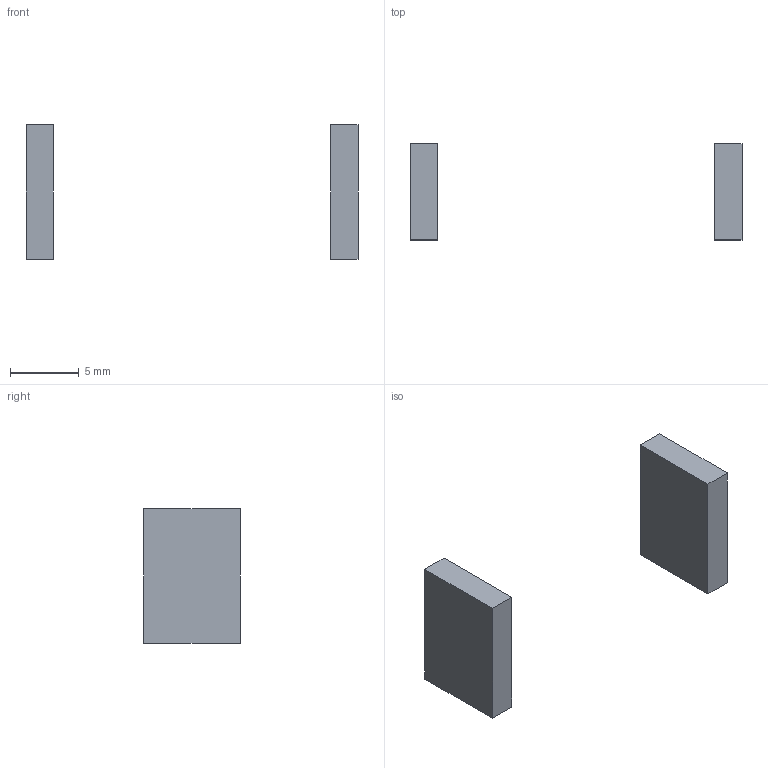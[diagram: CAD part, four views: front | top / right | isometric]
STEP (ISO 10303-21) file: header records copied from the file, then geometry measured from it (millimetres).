
FILE_DESCRIPTION(('FreeCAD Model'),'2;1');
FILE_NAME('Open CASCADE Shape Model','2026-10-31T13:49:49',('FreeCAD'),( 'FreeCAD'),'Open CASCADE STEP processor 7.8','FreeCAD','Unknown');
FILE_SCHEMA(('AUTOMOTIVE_DESIGN { 1 0 10303 214 1 1 1 1 }'));
Length unit declared in the file: millimetre
Products named in the file (1): Open CASCADE STEP translator 7.8 28
Bounding box: 24.2 x 7 x 9.8 mm (x, y, z)
Volume: 274.4 mm3; surface area: 408.8 mm2
Topology: 2 solids, 2 shells, 12 faces, 24 edges, 16 vertices
Faces by surface type: plane 12
Entity records: 316 total; most frequent: CARTESIAN_POINT 53, DIRECTION 50, ORIENTED_EDGE 48, EDGE_CURVE 24, LINE 24, VECTOR 24, VERTEX_POINT 16, AXIS2_PLACEMENT_3D 13
